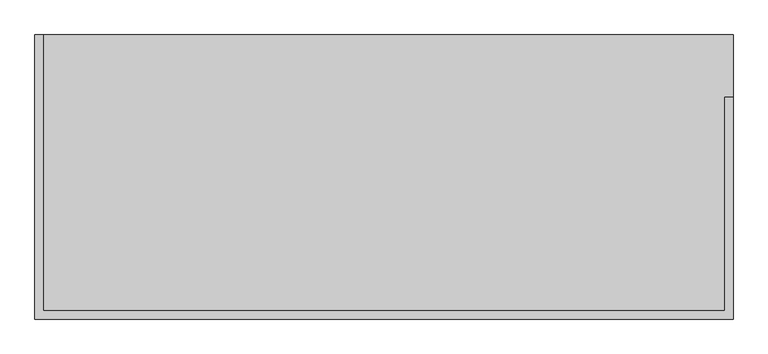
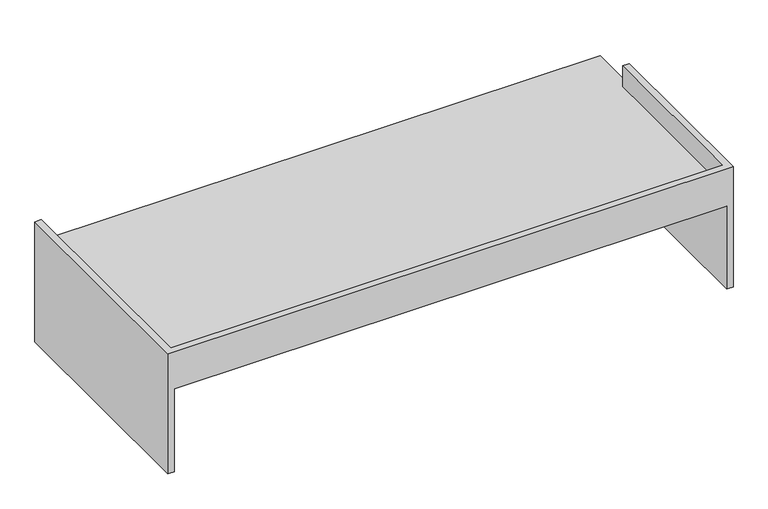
"""IFC4 building model written with IfcOpenShell, lengths in millimetres: furniture geometry, Mueble con faldon sin cajones - lavabo sobreponer : MB7-mueble baño colgado- 1.70 cm."""

from ifc_helpers import new_model, si_unit, origin, place, context, project, spatial, faceted_brep, source, transform, mapped, element, save


def furniture_78e59265(model_context):
    return source(origin(), model_context, "Body", "Brep", [
        faceted_brep([(-520.0, 615.0, 800.0), (-505.0, 615.0, 800.0), (-505.0, 615.0, 750.0), (770.0, 615.0, 750.0), (770.0, 615.0, 510.0), (-520.0, 615.0, 510.0), (-520.0, 90.0, 800.0), (770.0, 90.0, 800.0), (770.0, 500.0, 800.0), (755.0, 500.0, 800.0), (755.0, 105.0, 800.0), (-505.0, 105.0, 800.0), (-505.0, 105.0, 750.0), (-520.0, 90.0, 510.0), (755.0, 105.0, 750.0), (-505.0, 90.0, 510.0), (-505.0, 90.0, 710.0), (755.0, 90.0, 710.0), (755.0, 90.0, 510.0), (770.0, 90.0, 510.0), (755.0, 500.0, 750.0), (770.0, 500.0, 750.0), (755.0, 600.0, 510.0), (-505.0, 600.0, 510.0), (-505.0, 600.0, 710.0), (755.0, 600.0, 710.0)], [[[0, 1, 2, 3, 4, 5]], [[1, 0, 6, 7, 8, 9, 10, 11]], [[2, 1, 11, 12]], [[0, 5, 13, 6]], [[11, 10, 14, 12]], [[7, 6, 13, 15, 16, 17, 18, 19]], [[10, 9, 20, 14]], [[8, 7, 19, 4, 3, 21]], [[15, 13, 5, 4, 19, 18, 22, 23]], [[16, 15, 23, 24]], [[23, 22, 25, 24]], [[22, 18, 17, 25]], [[3, 2, 12, 14, 20, 21]], [[17, 16, 24, 25]], [[9, 8, 21, 20]]]),
    ])


if __name__ == "__main__":
    model = new_model("IFC4")
    model_context = context("Model", 3, world=origin())
    ifc_project = project(units=[si_unit("LENGTHUNIT", "METRE", prefix="MILLI")], contexts=[model_context])
    site = spatial("IfcSite", under=ifc_project)
    building = spatial("IfcBuilding", under=site)
    placement = place(None, origin())
    furniture_shape = furniture_78e59265(model_context)
    element("IfcFurniture", 1, ObjectType="Mueble con faldon sin cajones - lavabo sobreponer : MB7-mueble baño colgado- 1.70 cm", at=placement, inside=building, context=model_context, shape_type="MappedRepresentation", body=[
        mapped(furniture_shape, transform((0.0, 0.0, 0.0), x_axis=(1.0, 0.0, 0.0), y_axis=(0.0, 1.0, 0.0), z_axis=(0.0, 0.0, 1.0))),
    ])
    save(model, "model.ifc")
